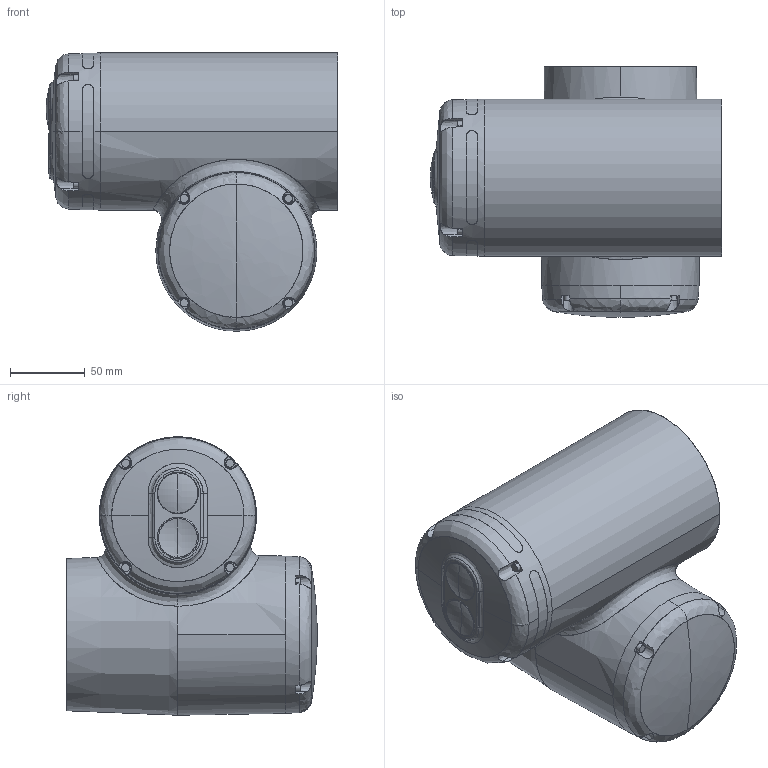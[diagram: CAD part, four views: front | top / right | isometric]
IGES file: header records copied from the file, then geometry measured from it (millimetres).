
Start section: SolidWorks IGES file using analytic representation for surfaces
Global section: file name: C:\data\sap_doc\500000125163\M12\Ready\CRB15000_12kg-127_Omnicore_rev00_LINK05_CAD.IGS; native system: SolidWorks 2022; preprocessor: SolidWorks 2022; author: CNTAFEN; date: 230711.100404; units: inch
Bounding box: 195.5 x 168 x 186.75 mm (x, y, z)
Surface area: 131898.7 mm2 (no closed solid volume)
Topology: 0 solids, 0 shells, 176 faces, 2881 edges, 2879 vertices
Faces by surface type: bspline 97, revolution 79
